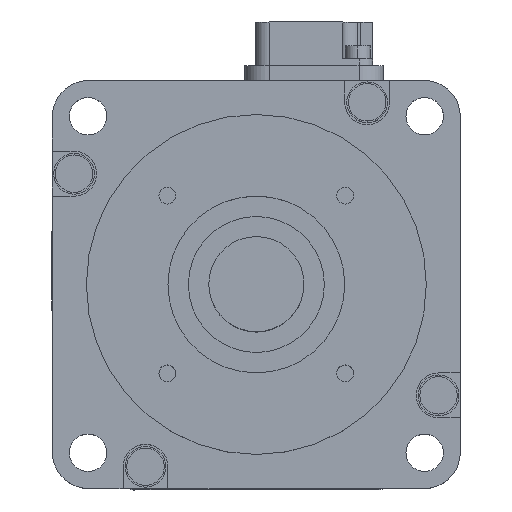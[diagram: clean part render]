
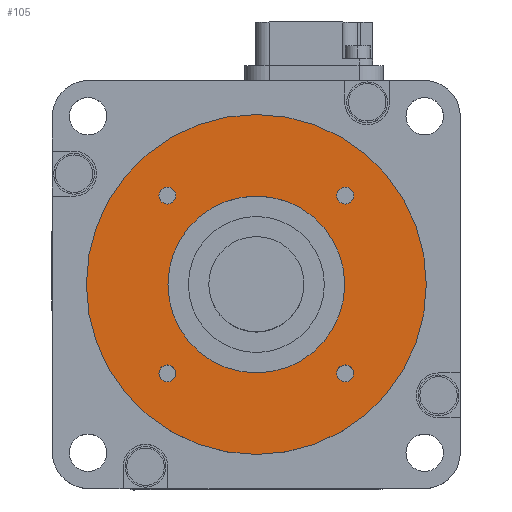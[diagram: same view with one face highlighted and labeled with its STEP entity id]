
A CAD part, top view. The second image highlights one B-rep face of the part: STEP entity #105.
In plain terms, the highlighted planar face has unit normal (0, 0, 1).
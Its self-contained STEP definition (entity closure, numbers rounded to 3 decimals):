
#74 = EDGE_CURVE ( 'NONE', #5567, #5570, #5864, .T. ) ;
#81 = EDGE_CURVE ( 'NONE', #5519, #5522, #5921, .T. ) ;
#86 = EDGE_CURVE ( 'NONE', #5671, #5674, #5905, .T. ) ;
#93 = EDGE_CURVE ( 'NONE', #5604, #5607, #5898, .T. ) ;
#94 = EDGE_LOOP ( 'NONE', ( #95, #96 ) ) ;
#95 = ORIENTED_EDGE ( 'NONE', *, *, #5673, .T. ) ;
#96 = ORIENTED_EDGE ( 'NONE', *, *, #86, .T. ) ;
#97 = EDGE_LOOP ( 'NONE', ( #98, #99 ) ) ;
#98 = ORIENTED_EDGE ( 'NONE', *, *, #5439, .T. ) ;
#99 = ORIENTED_EDGE ( 'NONE', *, *, #100, .T. ) ;
#100 = EDGE_CURVE ( 'NONE', #5436, #5440, #5956, .T. ) ;
#105 = ADVANCED_FACE ( 'NONE', ( #5940, #5939, #5938, #5937, #5936, #5935 ), #5934, .T. ) ;
#106 = EDGE_LOOP ( 'NONE', ( #107, #109 ) ) ;
#107 = ORIENTED_EDGE ( 'NONE', *, *, #108, .F. ) ;
#108 = EDGE_CURVE ( 'NONE', #5710, #5707, #5929, .T. ) ;
#109 = ORIENTED_EDGE ( 'NONE', *, *, #5709, .F. ) ;
#110 = EDGE_LOOP ( 'NONE', ( #111, #112 ) ) ;
#111 = ORIENTED_EDGE ( 'NONE', *, *, #5521, .T. ) ;
#112 = ORIENTED_EDGE ( 'NONE', *, *, #81, .T. ) ;
#113 = EDGE_LOOP ( 'NONE', ( #114, #166 ) ) ;
#114 = ORIENTED_EDGE ( 'NONE', *, *, #5569, .T. ) ;
#166 = ORIENTED_EDGE ( 'NONE', *, *, #74, .T. ) ;
#167 = EDGE_LOOP ( 'NONE', ( #168, #169 ) ) ;
#168 = ORIENTED_EDGE ( 'NONE', *, *, #5606, .T. ) ;
#169 = ORIENTED_EDGE ( 'NONE', *, *, #93, .T. ) ;
#5436 = VERTEX_POINT ( 'NONE', #14655 ) ;
#5439 = EDGE_CURVE ( 'NONE', #5440, #5436, #14650, .T. ) ;
#5440 = VERTEX_POINT ( 'NONE', #14645 ) ;
#5519 = VERTEX_POINT ( 'NONE', #14805 ) ;
#5521 = EDGE_CURVE ( 'NONE', #5522, #5519, #14804, .T. ) ;
#5522 = VERTEX_POINT ( 'NONE', #14799 ) ;
#5567 = VERTEX_POINT ( 'NONE', #14903 ) ;
#5569 = EDGE_CURVE ( 'NONE', #5570, #5567, #14902, .T. ) ;
#5570 = VERTEX_POINT ( 'NONE', #14897 ) ;
#5604 = VERTEX_POINT ( 'NONE', #14956 ) ;
#5606 = EDGE_CURVE ( 'NONE', #5607, #5604, #14955, .T. ) ;
#5607 = VERTEX_POINT ( 'NONE', #14950 ) ;
#5671 = VERTEX_POINT ( 'NONE', #15130 ) ;
#5673 = EDGE_CURVE ( 'NONE', #5674, #5671, #15129, .T. ) ;
#5674 = VERTEX_POINT ( 'NONE', #15124 ) ;
#5707 = VERTEX_POINT ( 'NONE', #15180 ) ;
#5709 = EDGE_CURVE ( 'NONE', #5707, #5710, #15179, .T. ) ;
#5710 = VERTEX_POINT ( 'NONE', #15174 ) ;
#5861 = DIRECTION ( 'NONE',  ( 0., 0., -1. ) ) ;
#5862 = CARTESIAN_POINT ( 'NONE',  ( -13.081, -13.081, 3. ) ) ;
#5863 = AXIS2_PLACEMENT_3D ( 'NONE', #5862, #5861, #5924 ) ;
#5864 = CIRCLE ( 'NONE', #5863, 1.25 ) ;
#5893 = AXIS2_PLACEMENT_3D ( 'NONE', #5959, #5958, #5957 ) ;
#5898 = CIRCLE ( 'NONE', #5893, 1.25 ) ;
#5901 = DIRECTION ( 'NONE',  ( 1., 0., 0. ) ) ;
#5902 = DIRECTION ( 'NONE',  ( 0., 0., -1. ) ) ;
#5903 = CARTESIAN_POINT ( 'NONE',  ( 13.081, 13.081, 3. ) ) ;
#5904 = AXIS2_PLACEMENT_3D ( 'NONE', #5903, #5902, #5901 ) ;
#5905 = CIRCLE ( 'NONE', #5904, 1.25 ) ;
#5913 = DIRECTION ( 'NONE',  ( 1., 0., 0. ) ) ;
#5914 = DIRECTION ( 'NONE',  ( 0., 0., -1. ) ) ;
#5915 = CARTESIAN_POINT ( 'NONE',  ( 13.081, -13.081, 3. ) ) ;
#5916 = AXIS2_PLACEMENT_3D ( 'NONE', #5915, #5914, #5913 ) ;
#5921 = CIRCLE ( 'NONE', #5916, 1.25 ) ;
#5924 = DIRECTION ( 'NONE',  ( 1., 0., 0. ) ) ;
#5925 = DIRECTION ( 'NONE',  ( 1., 0., 0. ) ) ;
#5926 = DIRECTION ( 'NONE',  ( 0., 0., 1. ) ) ;
#5927 = CARTESIAN_POINT ( 'NONE',  ( 0., 0., 3. ) ) ;
#5928 = AXIS2_PLACEMENT_3D ( 'NONE', #5927, #5926, #5925 ) ;
#5929 = CIRCLE ( 'NONE', #5928, 13. ) ;
#5930 = DIRECTION ( 'NONE',  ( -1., 0., 0. ) ) ;
#5931 = DIRECTION ( 'NONE',  ( 0., 0., 1. ) ) ;
#5932 = CARTESIAN_POINT ( 'NONE',  ( 26., 26., 3. ) ) ;
#5933 = AXIS2_PLACEMENT_3D ( 'NONE', #5932, #5931, #5930 ) ;
#5934 = PLANE ( 'NONE',  #5933 ) ;
#5935 = FACE_OUTER_BOUND ( 'NONE', #97, .T. ) ;
#5936 = FACE_BOUND ( 'NONE', #94, .T. ) ;
#5937 = FACE_BOUND ( 'NONE', #167, .T. ) ;
#5938 = FACE_BOUND ( 'NONE', #113, .T. ) ;
#5939 = FACE_BOUND ( 'NONE', #110, .T. ) ;
#5940 = FACE_BOUND ( 'NONE', #106, .T. ) ;
#5952 = DIRECTION ( 'NONE',  ( 1., 0., 0. ) ) ;
#5953 = DIRECTION ( 'NONE',  ( 0., 0., 1. ) ) ;
#5954 = CARTESIAN_POINT ( 'NONE',  ( 0., 0., 3. ) ) ;
#5955 = AXIS2_PLACEMENT_3D ( 'NONE', #5954, #5953, #5952 ) ;
#5956 = CIRCLE ( 'NONE', #5955, 25. ) ;
#5957 = DIRECTION ( 'NONE',  ( 1., 0., 0. ) ) ;
#5958 = DIRECTION ( 'NONE',  ( 0., 0., -1. ) ) ;
#5959 = CARTESIAN_POINT ( 'NONE',  ( -13.081, 13.081, 3. ) ) ;
#14645 = CARTESIAN_POINT ( 'NONE',  ( 25., 0., 3. ) ) ;
#14646 = DIRECTION ( 'NONE',  ( 1., 0., 0. ) ) ;
#14647 = DIRECTION ( 'NONE',  ( 0., 0., 1. ) ) ;
#14648 = CARTESIAN_POINT ( 'NONE',  ( 0., 0., 3. ) ) ;
#14649 = AXIS2_PLACEMENT_3D ( 'NONE', #14648, #14647, #14646 ) ;
#14650 = CIRCLE ( 'NONE', #14649, 25. ) ;
#14655 = CARTESIAN_POINT ( 'NONE',  ( -25., 0., 3. ) ) ;
#14799 = CARTESIAN_POINT ( 'NONE',  ( 14.331, -13.081, 3. ) ) ;
#14800 = DIRECTION ( 'NONE',  ( 1., 0., 0. ) ) ;
#14801 = DIRECTION ( 'NONE',  ( 0., 0., -1. ) ) ;
#14802 = CARTESIAN_POINT ( 'NONE',  ( 13.081, -13.081, 3. ) ) ;
#14803 = AXIS2_PLACEMENT_3D ( 'NONE', #14802, #14801, #14800 ) ;
#14804 = CIRCLE ( 'NONE', #14803, 1.25 ) ;
#14805 = CARTESIAN_POINT ( 'NONE',  ( 11.831, -13.081, 3. ) ) ;
#14897 = CARTESIAN_POINT ( 'NONE',  ( -11.831, -13.081, 3. ) ) ;
#14898 = DIRECTION ( 'NONE',  ( 1., 0., 0. ) ) ;
#14899 = DIRECTION ( 'NONE',  ( 0., 0., -1. ) ) ;
#14900 = CARTESIAN_POINT ( 'NONE',  ( -13.081, -13.081, 3. ) ) ;
#14901 = AXIS2_PLACEMENT_3D ( 'NONE', #14900, #14899, #14898 ) ;
#14902 = CIRCLE ( 'NONE', #14901, 1.25 ) ;
#14903 = CARTESIAN_POINT ( 'NONE',  ( -14.331, -13.081, 3. ) ) ;
#14950 = CARTESIAN_POINT ( 'NONE',  ( -11.831, 13.081, 3. ) ) ;
#14951 = DIRECTION ( 'NONE',  ( 1., 0., 0. ) ) ;
#14952 = DIRECTION ( 'NONE',  ( 0., 0., -1. ) ) ;
#14953 = CARTESIAN_POINT ( 'NONE',  ( -13.081, 13.081, 3. ) ) ;
#14954 = AXIS2_PLACEMENT_3D ( 'NONE', #14953, #14952, #14951 ) ;
#14955 = CIRCLE ( 'NONE', #14954, 1.25 ) ;
#14956 = CARTESIAN_POINT ( 'NONE',  ( -14.331, 13.081, 3. ) ) ;
#15124 = CARTESIAN_POINT ( 'NONE',  ( 14.331, 13.081, 3. ) ) ;
#15125 = DIRECTION ( 'NONE',  ( 1., 0., 0. ) ) ;
#15126 = DIRECTION ( 'NONE',  ( 0., 0., -1. ) ) ;
#15127 = CARTESIAN_POINT ( 'NONE',  ( 13.081, 13.081, 3. ) ) ;
#15128 = AXIS2_PLACEMENT_3D ( 'NONE', #15127, #15126, #15125 ) ;
#15129 = CIRCLE ( 'NONE', #15128, 1.25 ) ;
#15130 = CARTESIAN_POINT ( 'NONE',  ( 11.831, 13.081, 3. ) ) ;
#15174 = CARTESIAN_POINT ( 'NONE',  ( 13., 0., 3. ) ) ;
#15175 = DIRECTION ( 'NONE',  ( 1., 0., 0. ) ) ;
#15176 = DIRECTION ( 'NONE',  ( 0., 0., 1. ) ) ;
#15177 = CARTESIAN_POINT ( 'NONE',  ( 0., 0., 3. ) ) ;
#15178 = AXIS2_PLACEMENT_3D ( 'NONE', #15177, #15176, #15175 ) ;
#15179 = CIRCLE ( 'NONE', #15178, 13. ) ;
#15180 = CARTESIAN_POINT ( 'NONE',  ( -13., 0., 3. ) ) ;
